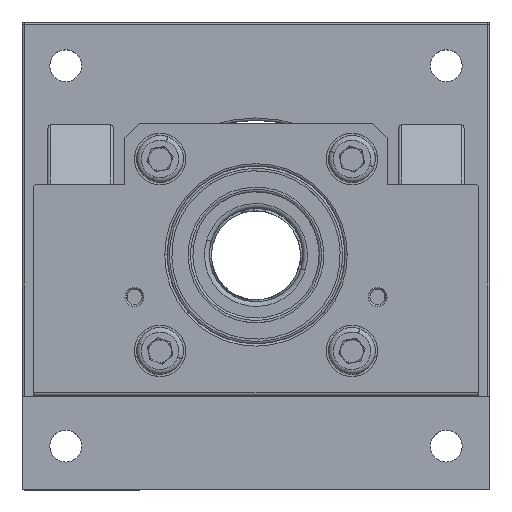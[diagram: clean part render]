
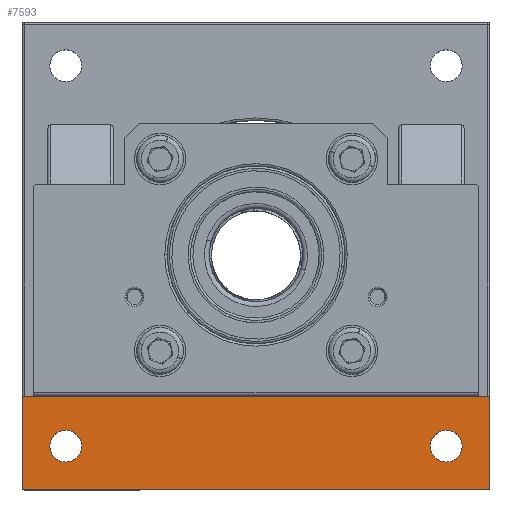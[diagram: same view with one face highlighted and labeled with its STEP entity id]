
A CAD part, top view. The second image highlights one B-rep face of the part: STEP entity #7593.
In plain terms, the highlighted planar face has unit normal (0, 0, 1).
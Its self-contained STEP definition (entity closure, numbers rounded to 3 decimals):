
#89 = CIRCLE ( 'NONE', #7095, 3.4 ) ;
#313 = EDGE_CURVE ( 'NONE', #7144, #2776, #10605, .T. ) ;
#331 = DIRECTION ( 'NONE',  ( 0., 0., 1. ) ) ;
#593 = FACE_OUTER_BOUND ( 'NONE', #10880, .T. ) ;
#648 = CARTESIAN_POINT ( 'NONE',  ( -50., -30., -115. ) ) ;
#670 = DIRECTION ( 'NONE',  ( -1., 0., 0. ) ) ;
#1154 = EDGE_CURVE ( 'NONE', #8046, #8890, #3198, .T. ) ;
#1312 = CARTESIAN_POINT ( 'NONE',  ( 49.5, -50., -115. ) ) ;
#1378 = CARTESIAN_POINT ( 'NONE',  ( 50., -30., -115. ) ) ;
#1384 = CARTESIAN_POINT ( 'NONE',  ( 44.059, -40.659, -115. ) ) ;
#1439 = EDGE_CURVE ( 'NONE', #5108, #11346, #9721, .T. ) ;
#1486 = VECTOR ( 'NONE', #1692, 1000. ) ;
#1593 = DIRECTION ( 'NONE',  ( -1., 0., 0. ) ) ;
#1692 = DIRECTION ( 'NONE',  ( 0., -1., 0. ) ) ;
#1760 = LINE ( 'NONE', #4266, #1486 ) ;
#2087 = DIRECTION ( 'NONE',  ( -1., 0., 0. ) ) ;
#2129 = DIRECTION ( 'NONE',  ( 0., 0., 1. ) ) ;
#2142 = LINE ( 'NONE', #2216, #8822 ) ;
#2182 = CARTESIAN_POINT ( 'NONE',  ( -49.5, -49.5, -115. ) ) ;
#2193 = AXIS2_PLACEMENT_3D ( 'NONE', #2203, #2962, #3003 ) ;
#2203 = CARTESIAN_POINT ( 'NONE',  ( -40.659, -40.659, -115. ) ) ;
#2216 = CARTESIAN_POINT ( 'NONE',  ( -50., -30., -115. ) ) ;
#2675 = AXIS2_PLACEMENT_3D ( 'NONE', #5954, #6823, #1593 ) ;
#2719 = ORIENTED_EDGE ( 'NONE', *, *, #10634, .T. ) ;
#2776 = VERTEX_POINT ( 'NONE', #8714 ) ;
#2902 = EDGE_CURVE ( 'NONE', #8890, #8046, #89, .T. ) ;
#2904 = ORIENTED_EDGE ( 'NONE', *, *, #9691, .F. ) ;
#2962 = DIRECTION ( 'NONE',  ( 0., 0., 1. ) ) ;
#3002 = CIRCLE ( 'NONE', #6698, 3.4 ) ;
#3003 = DIRECTION ( 'NONE',  ( -1., 0., 0. ) ) ;
#3093 = ORIENTED_EDGE ( 'NONE', *, *, #1154, .F. ) ;
#3133 = ORIENTED_EDGE ( 'NONE', *, *, #1439, .T. ) ;
#3198 = CIRCLE ( 'NONE', #2193, 3.4 ) ;
#3339 = CARTESIAN_POINT ( 'NONE',  ( -37.259, -40.659, -115. ) ) ;
#3702 = EDGE_CURVE ( 'NONE', #6140, #2776, #6679, .T. ) ;
#4215 = CARTESIAN_POINT ( 'NONE',  ( 40.659, -40.659, -115. ) ) ;
#4266 = CARTESIAN_POINT ( 'NONE',  ( 50., -30., -115. ) ) ;
#4411 = EDGE_LOOP ( 'NONE', ( #5928, #3093 ) ) ;
#4538 = VERTEX_POINT ( 'NONE', #1384 ) ;
#4800 = EDGE_LOOP ( 'NONE', ( #8652, #6830 ) ) ;
#4817 = ORIENTED_EDGE ( 'NONE', *, *, #3702, .T. ) ;
#4954 = DIRECTION ( 'NONE',  ( -1., 0., 0. ) ) ;
#4968 = DIRECTION ( 'NONE',  ( 0., 0., 1. ) ) ;
#4996 = CARTESIAN_POINT ( 'NONE',  ( -40.659, -40.659, -115. ) ) ;
#5108 = VERTEX_POINT ( 'NONE', #1378 ) ;
#5128 = DIRECTION ( 'NONE',  ( -1., 0., 0. ) ) ;
#5377 = CARTESIAN_POINT ( 'NONE',  ( 50., -49.5, -115. ) ) ;
#5620 = CARTESIAN_POINT ( 'NONE',  ( 49.5, -49.5, -115. ) ) ;
#5658 = EDGE_CURVE ( 'NONE', #4538, #9203, #8961, .T. ) ;
#5921 = DIRECTION ( 'NONE',  ( 0., 0., 1. ) ) ;
#5928 = ORIENTED_EDGE ( 'NONE', *, *, #2902, .F. ) ;
#5954 = CARTESIAN_POINT ( 'NONE',  ( 50., -30., -115. ) ) ;
#6140 = VERTEX_POINT ( 'NONE', #10338 ) ;
#6372 = ORIENTED_EDGE ( 'NONE', *, *, #313, .F. ) ;
#6487 = DIRECTION ( 'NONE',  ( -1., 0., 0. ) ) ;
#6489 = CARTESIAN_POINT ( 'NONE',  ( -44.059, -40.659, -115. ) ) ;
#6679 = CIRCLE ( 'NONE', #10547, 0.5 ) ;
#6698 = AXIS2_PLACEMENT_3D ( 'NONE', #4215, #10351, #5128 ) ;
#6756 = CARTESIAN_POINT ( 'NONE',  ( 50., -30., -115. ) ) ;
#6823 = DIRECTION ( 'NONE',  ( 0., 0., -1. ) ) ;
#6830 = ORIENTED_EDGE ( 'NONE', *, *, #5658, .F. ) ;
#6910 = DIRECTION ( 'NONE',  ( -1., 0., 0. ) ) ;
#6984 = VERTEX_POINT ( 'NONE', #5377 ) ;
#7095 = AXIS2_PLACEMENT_3D ( 'NONE', #4996, #4968, #4954 ) ;
#7100 = CARTESIAN_POINT ( 'NONE',  ( 37.259, -40.659, -115. ) ) ;
#7142 = EDGE_CURVE ( 'NONE', #11346, #6140, #2142, .T. ) ;
#7144 = VERTEX_POINT ( 'NONE', #1312 ) ;
#7316 = FACE_BOUND ( 'NONE', #4411, .T. ) ;
#7527 = ORIENTED_EDGE ( 'NONE', *, *, #7142, .T. ) ;
#7593 = ADVANCED_FACE ( 'NONE', ( #593, #9617, #7316 ), #9413, .F. ) ;
#8046 = VERTEX_POINT ( 'NONE', #3339 ) ;
#8268 = VECTOR ( 'NONE', #9389, 1000. ) ;
#8309 = DIRECTION ( 'NONE',  ( 0., -1., 0. ) ) ;
#8521 = AXIS2_PLACEMENT_3D ( 'NONE', #5620, #331, #6487 ) ;
#8652 = ORIENTED_EDGE ( 'NONE', *, *, #10296, .F. ) ;
#8714 = CARTESIAN_POINT ( 'NONE',  ( -49.5, -50., -115. ) ) ;
#8822 = VECTOR ( 'NONE', #8309, 1000. ) ;
#8890 = VERTEX_POINT ( 'NONE', #6489 ) ;
#8961 = CIRCLE ( 'NONE', #11103, 3.4 ) ;
#9203 = VERTEX_POINT ( 'NONE', #7100 ) ;
#9389 = DIRECTION ( 'NONE',  ( -1., 0., 0. ) ) ;
#9413 = PLANE ( 'NONE',  #2675 ) ;
#9456 = VECTOR ( 'NONE', #6910, 1000. ) ;
#9617 = FACE_BOUND ( 'NONE', #4800, .T. ) ;
#9691 = EDGE_CURVE ( 'NONE', #5108, #6984, #1760, .T. ) ;
#9721 = LINE ( 'NONE', #6756, #9456 ) ;
#9852 = CARTESIAN_POINT ( 'NONE',  ( 50., -50., -115. ) ) ;
#10296 = EDGE_CURVE ( 'NONE', #9203, #4538, #3002, .T. ) ;
#10338 = CARTESIAN_POINT ( 'NONE',  ( -50., -49.5, -115. ) ) ;
#10351 = DIRECTION ( 'NONE',  ( 0., 0., 1. ) ) ;
#10547 = AXIS2_PLACEMENT_3D ( 'NONE', #2182, #2129, #2087 ) ;
#10605 = LINE ( 'NONE', #9852, #8268 ) ;
#10634 = EDGE_CURVE ( 'NONE', #7144, #6984, #10790, .T. ) ;
#10790 = CIRCLE ( 'NONE', #8521, 0.5 ) ;
#10880 = EDGE_LOOP ( 'NONE', ( #4817, #6372, #2719, #2904, #3133, #7527 ) ) ;
#11103 = AXIS2_PLACEMENT_3D ( 'NONE', #11195, #5921, #670 ) ;
#11195 = CARTESIAN_POINT ( 'NONE',  ( 40.659, -40.659, -115. ) ) ;
#11346 = VERTEX_POINT ( 'NONE', #648 ) ;
